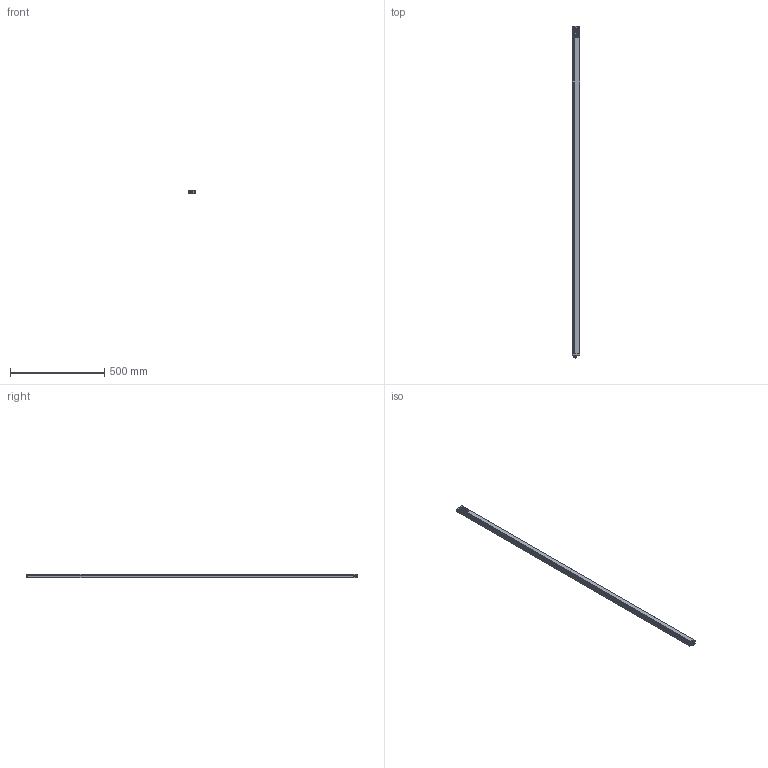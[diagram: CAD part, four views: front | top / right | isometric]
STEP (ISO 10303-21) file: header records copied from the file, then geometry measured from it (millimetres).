
FILE_DESCRIPTION(/* description */ (''),/* implementation_level */ '2;1');
FILE_NAME(/* name */ 'C:\Users\andre\SynologyDrive\Optoscan\Libreria Componenti\00 - Barriere\Polaris sorgente\Polaris_1730_TX.stp',/* time_stamp */ '2021-06-04T11:07:41+02:00',/* author */ ('andre'),/* organization */ (''),/* preprocessor_version */ 'ST-DEVELOPER v18',/* originating_system */ 'Autodesk Inventor 2020',/* authorisation */ '');
FILE_SCHEMA (('AUTOMOTIVE_DESIGN { 1 0 10303 214 3 1 1 }'));
Length unit declared in the file: millimetre
Products named in the file (1): Polaris_1730_TX
Bounding box: 40.5 x 1760.8 x 20.75 mm (x, y, z)
Volume: 346591 mm3; surface area: 457965.7 mm2
Topology: 1 solids, 1 shells, 738 faces, 2048 edges, 1320 vertices
Faces by surface type: plane 331, cylinder 207, bspline 115, torus 71, cone 8, sphere 6
Full cylindrical faces by diameter (mm): 1 x8, 2.459 x4, 2.5 x4, 3 x4, 3.5 x4, 5.5 x4, 8 x1, 10.5 x2, 11.75 x9, 12 x1, 12.3 x2, 14.5 x1, 16.7 x1, 17.5 x1
Entity records: 30426 total; most frequent: CARTESIAN_POINT 11243, ORIENTED_EDGE 4082, DIRECTION 3549, EDGE_CURVE 2041, VERTEX_POINT 1321, AXIS2_PLACEMENT_3D 1243, LINE 1063, VECTOR 1063
